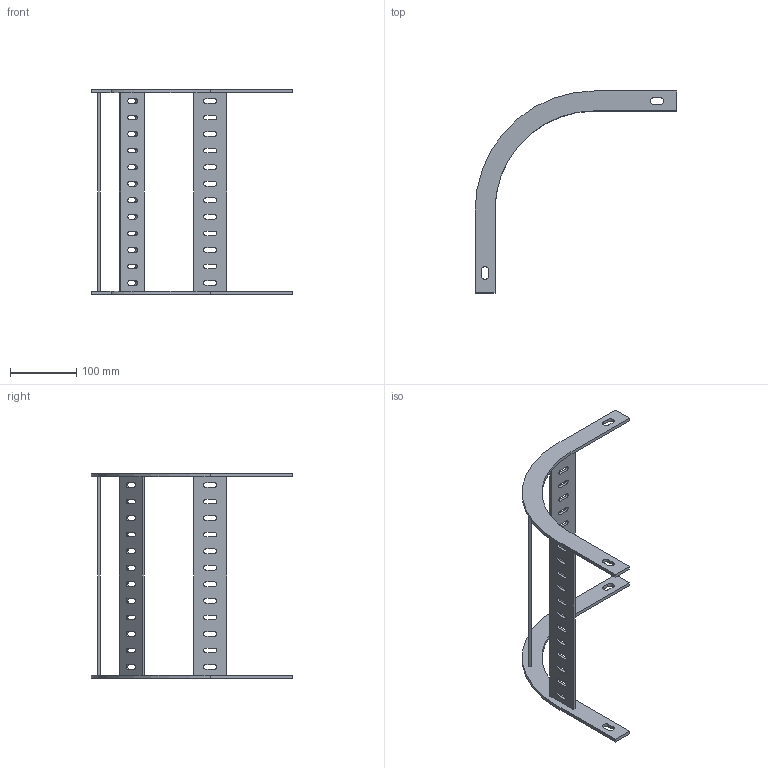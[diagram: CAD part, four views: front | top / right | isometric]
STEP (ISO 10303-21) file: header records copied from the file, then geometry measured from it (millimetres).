
FILE_DESCRIPTION(('Creo Elements/Direct Modeling STEP Export'),'2;1');
FILE_NAME('//pserver/office/EK/ME10-3D/3D-output/SLS 300F.stp','2020-03-10T15:12:31',(''),(''),'PTC Creo Elements/Direct Modeling STEP processor for AP214 (Solid Model)','PTC Creo Elements/Direct Modeling 19.0C 15-Aug-2015 (C) Parametric Technology GmbH','');
FILE_SCHEMA(('AUTOMOTIVE_DESIGN { 1 0 10303 214 1 1 1 1 }'));
Length unit declared in the file: millimetre
Products named in the file (1): SLS_300F
Bounding box: 305 x 305 x 310 mm (x, y, z)
Volume: 310228 mm3; surface area: 164972.1 mm2
Topology: 1 solids, 1 shells, 192 faces, 564 edges, 376 vertices
Faces by surface type: plane 108, cylinder 84
Entity records: 6606 total; most frequent: CARTESIAN_POINT 1133, ORIENTED_EDGE 1128, DIRECTION 1118, EDGE_CURVE 564, VECTOR 396, LINE 396, VERTEX_POINT 376, AXIS2_PLACEMENT_3D 361
